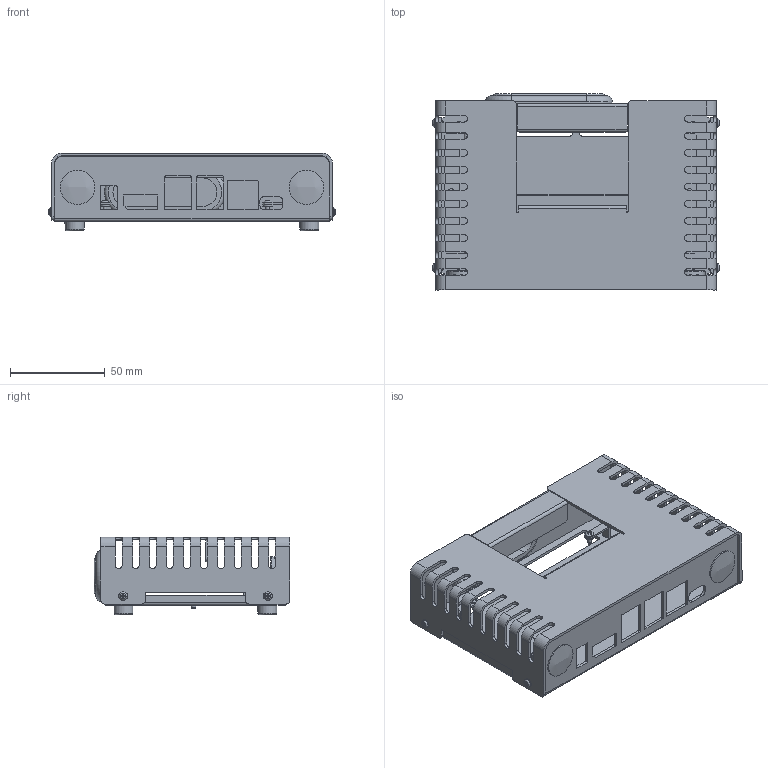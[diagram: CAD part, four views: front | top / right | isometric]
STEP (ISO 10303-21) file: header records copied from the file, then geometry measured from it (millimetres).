
FILE_DESCRIPTION(/* description */ (''),/* implementation_level */ '2;1');
FILE_NAME(/* name */ 'Open_Step_ND290.step',/* time_stamp */ '2023-06-22T13:38:31+09:00',/* author */ (''),/* organization */ (''),/* preprocessor_version */ 'ST-DEVELOPER v19.2',/* originating_system */ 'Autodesk Translation Framework v12.6.0.85',/* authorisation */ '');
FILE_SCHEMA (('AUTOMOTIVE_DESIGN { 1 0 10303 214 3 1 1 }'));
Length unit declared in the file: millimetre
Products named in the file (15): Open_Step_ND290; シャーシ; 基板ユニット取付板; 基板ユニット取付板 (1); CP-30-HP-7-Black; D2030-5810 ジュラコンブッシュM
2; M2-6_Truss_head_screw; C-30-RK-10-black (1); C-30-RK-10-black v2 (1); C-30-RK-10-black v2 (2); C-30-RK-10-black v2 (3); C-30-RK-10-black; M2_6-4 Pan Head Screw; C-30-SG-20-60A-EP-UL; カバー
Assembly tree (29 placements, depth 3):
  Open_Step_ND290
    シャーシ
    基板ユニット取付板
    基板ユニット取付板 (1)
    CP-30-HP-7-Black  x2
    M2_6-4 Pan Head Screw  x6
    D2030-5810 ジュラコンブッシュM
2  x4
    M2-6_Truss_head_screw  x4
    C-30-RK-10-black (1)
      C-30-RK-10-black
    C-30-RK-10-black v2 (1)
      C-30-RK-10-black
    C-30-RK-10-black v2 (2)
      C-30-RK-10-black
    C-30-RK-10-black v2 (3)
      C-30-RK-10-black
    C-30-SG-20-60A-EP-UL
    カバー
Bounding box: 151.57 x 103.6 x 41.15 mm (x, y, z)
Volume: 67040.2 mm3; surface area: 96341.4 mm2
Topology: 25 solids, 25 shells, 827 faces, 2327 edges, 1540 vertices
Faces by surface type: plane 483, cylinder 292, torus 18, cone 18, sphere 16
Full cylindrical faces by diameter (mm): 2 x8, 2.175 x10, 2.6 x6, 3 x12, 4.5 x10, 5 x8, 10 x4, 12.8 x2, 15.7 x2, 16.1 x2, 18.2 x2
Entity records: 20716 total; most frequent: CARTESIAN_POINT 3775, ORIENTED_EDGE 3494, DIRECTION 3492, EDGE_CURVE 1747, LINE 1196, VECTOR 1196, VERTEX_POINT 1157, AXIS2_PLACEMENT_3D 1148
